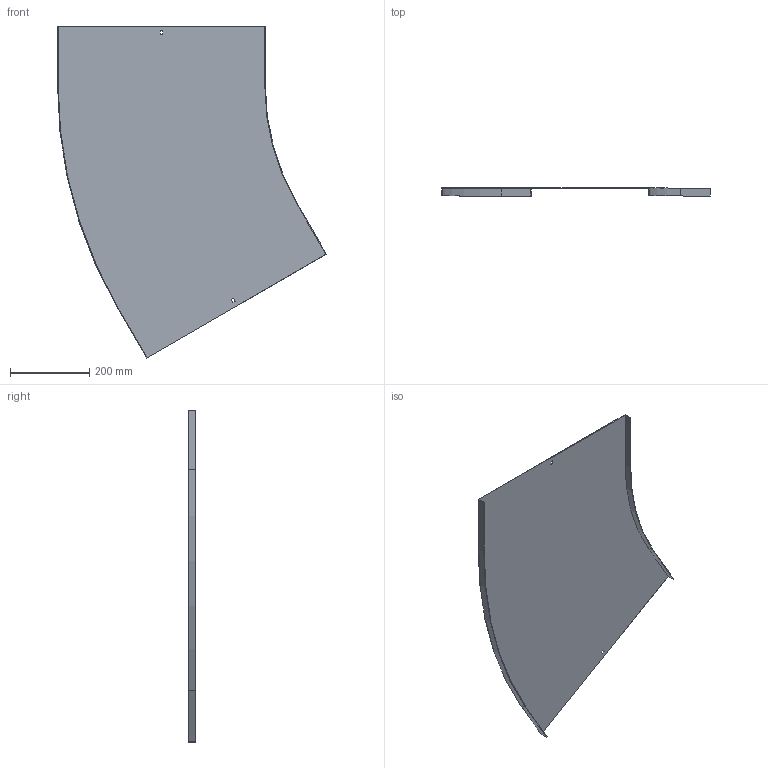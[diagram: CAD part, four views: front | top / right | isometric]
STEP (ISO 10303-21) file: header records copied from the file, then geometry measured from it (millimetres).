
FILE_DESCRIPTION (( 'STEP AP214' ), '1' );
FILE_NAME ('12N6P500.step', '2025-02-21T13:34:31', ( '' ), ( '' ), 'SwSTEP 2.0', 'SolidWorks 2023', '' );
FILE_SCHEMA (( 'AUTOMOTIVE_DESIGN' ));
Length unit declared in the file: millimetre
Products named in the file (1): 12N6P500
Bounding box: 676.84 x 20 x 835.65 mm (x, y, z)
Volume: 625674 mm3; surface area: 838240.2 mm2
Topology: 1 solids, 1 shells, 26 faces, 72 edges, 48 vertices
Faces by surface type: plane 22, cylinder 4
Entity records: 855 total; most frequent: CARTESIAN_POINT 147, ORIENTED_EDGE 144, DIRECTION 134, EDGE_CURVE 72, VECTOR 64, LINE 64, VERTEX_POINT 48, AXIS2_PLACEMENT_3D 35
